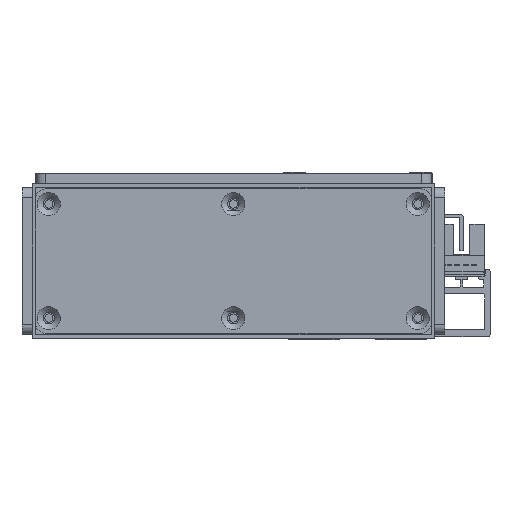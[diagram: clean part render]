
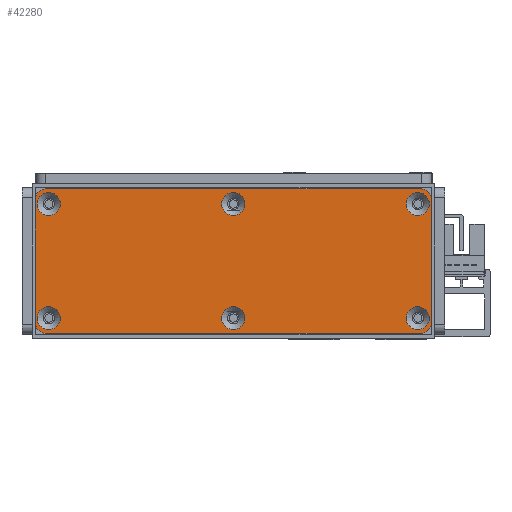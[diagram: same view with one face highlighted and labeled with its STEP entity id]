
A CAD part, front view. The second image highlights one B-rep face of the part: STEP entity #42280.
In plain terms, the highlighted planar face has unit normal (0, -1, 0) as drawn and (0, 0, 1) by its records, which use the part's own axes.
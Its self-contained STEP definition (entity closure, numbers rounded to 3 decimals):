
#918=FACE_BOUND('',#7379,.T.);
#919=FACE_BOUND('',#7380,.T.);
#920=FACE_BOUND('',#7381,.T.);
#921=FACE_BOUND('',#7382,.T.);
#922=FACE_BOUND('',#7383,.T.);
#923=FACE_BOUND('',#7384,.T.);
#2423=PLANE('',#45836);
#4812=FACE_OUTER_BOUND('',#7378,.T.);
#7378=EDGE_LOOP('',(#39053,#39054,#39055,#39056,#39057,#39058,#39059,#39060));
#7379=EDGE_LOOP('',(#39061));
#7380=EDGE_LOOP('',(#39062));
#7381=EDGE_LOOP('',(#39063));
#7382=EDGE_LOOP('',(#39064));
#7383=EDGE_LOOP('',(#39065));
#7384=EDGE_LOOP('',(#39066));
#11981=LINE('',#70633,#16661);
#11985=LINE('',#70645,#16665);
#11989=LINE('',#70657,#16669);
#11993=LINE('',#70667,#16673);
#16661=VECTOR('',#56594,10.);
#16665=VECTOR('',#56606,10.);
#16669=VECTOR('',#56618,10.);
#16673=VECTOR('',#56630,10.);
#17869=CIRCLE('',#45790,3.45);
#17872=CIRCLE('',#45795,3.45);
#17875=CIRCLE('',#45800,3.45);
#17878=CIRCLE('',#45805,3.45);
#17881=CIRCLE('',#45810,3.45);
#17884=CIRCLE('',#45815,3.45);
#17888=CIRCLE('',#45821,3.);
#17890=CIRCLE('',#45825,3.);
#17892=CIRCLE('',#45829,3.);
#17894=CIRCLE('',#45833,3.);
#21677=VERTEX_POINT('',#70561);
#21680=VERTEX_POINT('',#70571);
#21683=VERTEX_POINT('',#70581);
#21686=VERTEX_POINT('',#70591);
#21689=VERTEX_POINT('',#70601);
#21692=VERTEX_POINT('',#70611);
#21697=VERTEX_POINT('',#70624);
#21698=VERTEX_POINT('',#70626);
#21700=VERTEX_POINT('',#70632);
#21702=VERTEX_POINT('',#70638);
#21704=VERTEX_POINT('',#70644);
#21706=VERTEX_POINT('',#70650);
#21708=VERTEX_POINT('',#70656);
#21710=VERTEX_POINT('',#70662);
#27478=EDGE_CURVE('',#21677,#21677,#17869,.T.);
#27483=EDGE_CURVE('',#21680,#21680,#17872,.T.);
#27488=EDGE_CURVE('',#21683,#21683,#17875,.T.);
#27493=EDGE_CURVE('',#21686,#21686,#17878,.T.);
#27498=EDGE_CURVE('',#21689,#21689,#17881,.T.);
#27503=EDGE_CURVE('',#21692,#21692,#17884,.T.);
#27510=EDGE_CURVE('',#21698,#21697,#17888,.T.);
#27513=EDGE_CURVE('',#21700,#21698,#11981,.T.);
#27516=EDGE_CURVE('',#21702,#21700,#17890,.T.);
#27519=EDGE_CURVE('',#21704,#21702,#11985,.T.);
#27522=EDGE_CURVE('',#21706,#21704,#17892,.T.);
#27525=EDGE_CURVE('',#21708,#21706,#11989,.T.);
#27528=EDGE_CURVE('',#21710,#21708,#17894,.T.);
#27531=EDGE_CURVE('',#21697,#21710,#11993,.T.);
#39053=ORIENTED_EDGE('',*,*,#27531,.T.);
#39054=ORIENTED_EDGE('',*,*,#27528,.T.);
#39055=ORIENTED_EDGE('',*,*,#27525,.T.);
#39056=ORIENTED_EDGE('',*,*,#27522,.T.);
#39057=ORIENTED_EDGE('',*,*,#27519,.T.);
#39058=ORIENTED_EDGE('',*,*,#27516,.T.);
#39059=ORIENTED_EDGE('',*,*,#27513,.T.);
#39060=ORIENTED_EDGE('',*,*,#27510,.T.);
#39061=ORIENTED_EDGE('',*,*,#27478,.T.);
#39062=ORIENTED_EDGE('',*,*,#27483,.T.);
#39063=ORIENTED_EDGE('',*,*,#27488,.T.);
#39064=ORIENTED_EDGE('',*,*,#27493,.T.);
#39065=ORIENTED_EDGE('',*,*,#27498,.T.);
#39066=ORIENTED_EDGE('',*,*,#27503,.T.);
#42280=ADVANCED_FACE('',(#4812,#918,#919,#920,#921,#922,#923),#2423,.T.);
#45790=AXIS2_PLACEMENT_3D('',#70562,#56513,#56514);
#45795=AXIS2_PLACEMENT_3D('',#70572,#56525,#56526);
#45800=AXIS2_PLACEMENT_3D('',#70582,#56537,#56538);
#45805=AXIS2_PLACEMENT_3D('',#70592,#56549,#56550);
#45810=AXIS2_PLACEMENT_3D('',#70602,#56561,#56562);
#45815=AXIS2_PLACEMENT_3D('',#70612,#56573,#56574);
#45821=AXIS2_PLACEMENT_3D('',#70627,#56588,#56589);
#45825=AXIS2_PLACEMENT_3D('',#70639,#56600,#56601);
#45829=AXIS2_PLACEMENT_3D('',#70651,#56612,#56613);
#45833=AXIS2_PLACEMENT_3D('',#70663,#56624,#56625);
#45836=AXIS2_PLACEMENT_3D('',#70669,#56633,#56634);
#56513=DIRECTION('center_axis',(0.,0.,-1.));
#56514=DIRECTION('ref_axis',(1.,0.,0.));
#56525=DIRECTION('center_axis',(0.,0.,-1.));
#56526=DIRECTION('ref_axis',(1.,0.,0.));
#56537=DIRECTION('center_axis',(0.,0.,-1.));
#56538=DIRECTION('ref_axis',(1.,0.,0.));
#56549=DIRECTION('center_axis',(0.,0.,-1.));
#56550=DIRECTION('ref_axis',(1.,0.,0.));
#56561=DIRECTION('center_axis',(0.,0.,-1.));
#56562=DIRECTION('ref_axis',(1.,0.,0.));
#56573=DIRECTION('center_axis',(0.,0.,-1.));
#56574=DIRECTION('ref_axis',(1.,0.,0.));
#56588=DIRECTION('center_axis',(0.,0.,1.));
#56589=DIRECTION('ref_axis',(-1.,0.,0.));
#56594=DIRECTION('',(0.,1.,0.));
#56600=DIRECTION('center_axis',(0.,0.,1.));
#56601=DIRECTION('ref_axis',(0.,1.,0.));
#56606=DIRECTION('',(1.,0.,0.));
#56612=DIRECTION('center_axis',(0.,0.,1.));
#56613=DIRECTION('ref_axis',(1.,0.,0.));
#56618=DIRECTION('',(0.,-1.,0.));
#56624=DIRECTION('center_axis',(0.,0.,1.));
#56625=DIRECTION('ref_axis',(0.,-1.,0.));
#56630=DIRECTION('',(-1.,0.,0.));
#56633=DIRECTION('center_axis',(0.,0.,1.));
#56634=DIRECTION('ref_axis',(1.,0.,0.));
#70561=CARTESIAN_POINT('',(110.55,4.5,3.));
#70562=CARTESIAN_POINT('Origin',(114.,4.5,3.));
#70571=CARTESIAN_POINT('',(55.55,38.5,3.));
#70572=CARTESIAN_POINT('Origin',(59.,38.5,3.));
#70581=CARTESIAN_POINT('',(55.55,4.5,3.));
#70582=CARTESIAN_POINT('Origin',(59.,4.5,3.));
#70591=CARTESIAN_POINT('',(0.55,38.5,3.));
#70592=CARTESIAN_POINT('Origin',(4.,38.5,3.));
#70601=CARTESIAN_POINT('',(110.55,38.5,3.));
#70602=CARTESIAN_POINT('Origin',(114.,38.5,3.));
#70611=CARTESIAN_POINT('',(0.55,4.5,3.));
#70612=CARTESIAN_POINT('Origin',(4.,4.5,3.));
#70624=CARTESIAN_POINT('',(115.,43.,3.));
#70626=CARTESIAN_POINT('',(118.,40.,3.));
#70627=CARTESIAN_POINT('Origin',(115.,40.,3.));
#70632=CARTESIAN_POINT('',(118.,3.,3.));
#70633=CARTESIAN_POINT('',(118.,40.,3.));
#70638=CARTESIAN_POINT('',(115.,0.,3.));
#70639=CARTESIAN_POINT('Origin',(115.,3.,3.));
#70644=CARTESIAN_POINT('',(3.,0.,3.));
#70645=CARTESIAN_POINT('',(115.,0.,3.));
#70650=CARTESIAN_POINT('',(0.,3.,3.));
#70651=CARTESIAN_POINT('Origin',(3.,3.,3.));
#70656=CARTESIAN_POINT('',(0.,40.,3.));
#70657=CARTESIAN_POINT('',(0.,3.,3.));
#70662=CARTESIAN_POINT('',(3.,43.,3.));
#70663=CARTESIAN_POINT('Origin',(3.,40.,3.));
#70667=CARTESIAN_POINT('',(3.,43.,3.));
#70669=CARTESIAN_POINT('Origin',(59.,21.5,3.));
